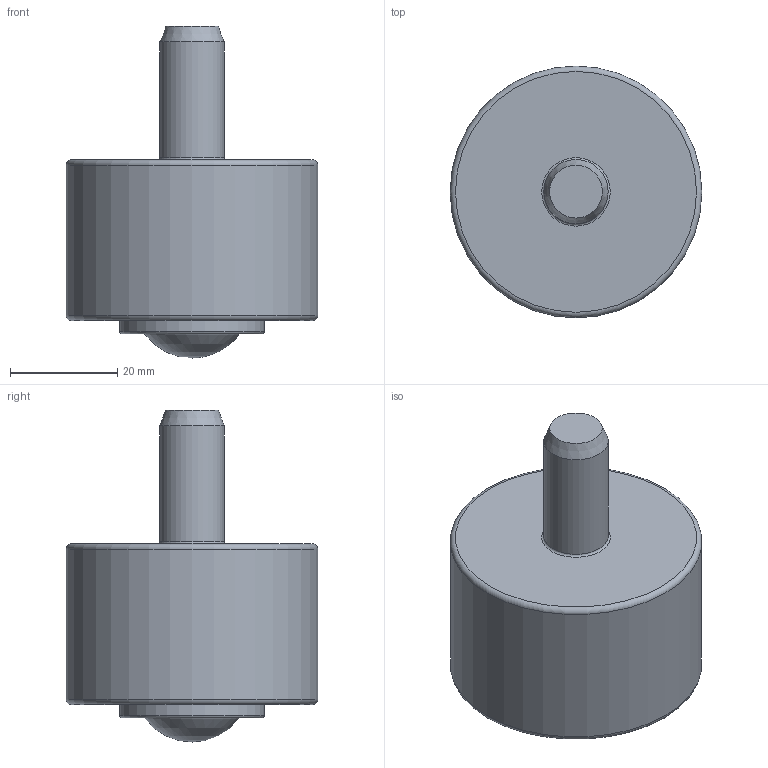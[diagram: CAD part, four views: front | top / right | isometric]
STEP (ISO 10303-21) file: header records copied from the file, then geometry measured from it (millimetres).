
FILE_DESCRIPTION(/* description */ (''),/* implementation_level */ '2;1');
FILE_NAME(/* name */ 'Z:\80-CAD共有ファイル\製品3D\X2\30C730FC30BF\X0\\12-IK-N\IK-22N.stp',/* time_stamp */ '2015-01-07T09:37:41+09:00',/* author */ ('yamaki'),/* organization */ (''),/* preprocessor_version */ 'ST-DEVELOPER v15.6',/* originating_system */ 'Autodesk Inventor 2015',/* authorisation */ '');
FILE_SCHEMA (('AUTOMOTIVE_DESIGN { 1 0 10303 214 3 1 1 }'));
Length unit declared in the file: millimetre
Products named in the file (1): 1222AA
Bounding box: 47 x 47 x 62 mm (x, y, z)
Volume: 54546.3 mm3; surface area: 11482.2 mm2
Topology: 1 solids, 1 shells, 39 faces, 81 edges, 51 vertices
Faces by surface type: cylinder 15, plane 13, torus 7, sphere 2, cone 2
Full cylindrical faces by diameter (mm): 2.5 x2, 12 x1, 19.692 x1, 27 x1, 40.1 x1, 47 x1
Entity records: 1006 total; most frequent: DIRECTION 182, CARTESIAN_POINT 150, ORIENTED_EDGE 122, AXIS2_PLACEMENT_3D 81, EDGE_LOOP 64, EDGE_CURVE 61, VERTEX_POINT 49, CIRCLE 41
